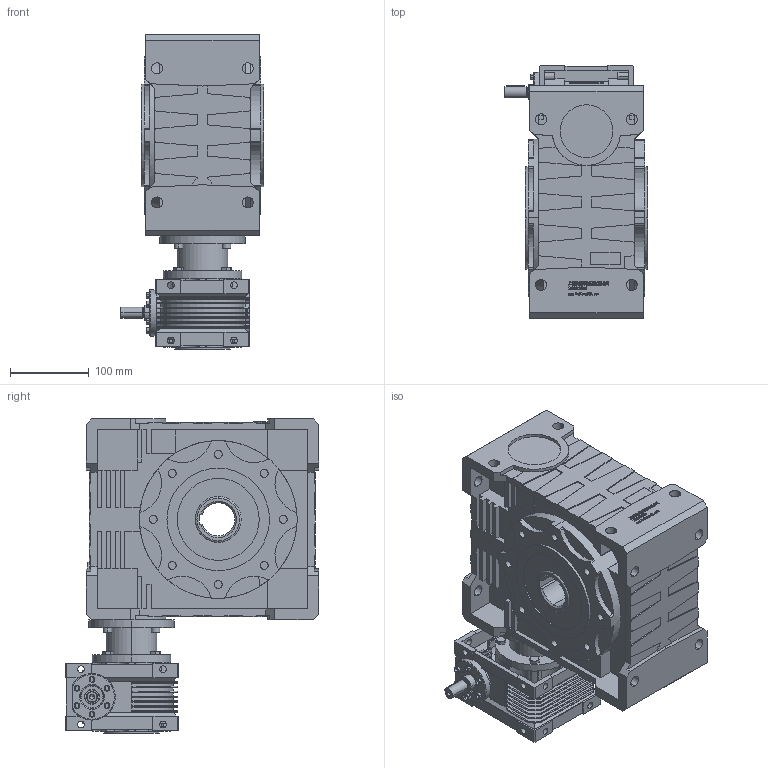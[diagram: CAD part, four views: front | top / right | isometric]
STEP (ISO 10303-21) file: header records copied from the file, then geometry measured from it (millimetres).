
FILE_DESCRIPTION (( 'STEP AP214' ), '1' );
FILE_NAME ('STP_NMRV110_空心轴_42_无_DRV050╱110_AS1_无_无结构附件_无或C1或C2_无或C1或C2_无.step', '2023-06-14T08:14:40', ( 'IT Division' ), ( 'IT' ), 'SwSTEP 2.0', 'SolidWorks 2016', '' );
FILE_SCHEMA (( 'AUTOMOTIVE_DESIGN' ));
Length unit declared in the file: millimetre
Products named in the file (3): STP_NMRV110_空心轴_42_无_DRV050╱110_AS1_无_无结构附件_无或C1或C2_无或C1或C2_无; STP_NMRV110_空心轴_42_无_DRV050╱110_AS1_无_无结构附件_无或C1或C2_无或C1或C2_无_NMRV110-150_NMRV110; STP_NMRV110_空心轴_42_无_DRV050╱110_AS1_无_无结构附件_无或C1或C2_无或C1或C2_无_NMRV030-063-2_NRV050
Assembly tree (2 placements, depth 2):
  STP_NMRV110_空心轴_42_无_DRV050╱110_AS1_无_无结构附件_无或C1或C2_无或C1或C2_无
    STP_NMRV110_空心轴_42_无_DRV050╱110_AS1_无_无结构附件_无或C1或C2_无或C1或C2_无_NMRV110-150_NMRV110
    STP_NMRV110_空心轴_42_无_DRV050╱110_AS1_无_无结构附件_无或C1或C2_无或C1或C2_无_NMRV030-063-2_NRV050
Bounding box: 181.5 x 321.5 x 398.51 mm (x, y, z)
Volume: 9998564.7 mm3; surface area: 730619.4 mm2
Topology: 6 solids, 6 shells, 2998 faces, 7969 edges, 5106 vertices
Faces by surface type: plane 1602, cylinder 706, bspline 435, sphere 125, cone 71, torus 59
Entity records: 114858 total; most frequent: CARTESIAN_POINT 40131, ORIENTED_EDGE 15796, DIRECTION 13597, EDGE_CURVE 7898, VECTOR 5183, LINE 5183, VERTEX_POINT 5106, AXIS2_PLACEMENT_3D 4207
